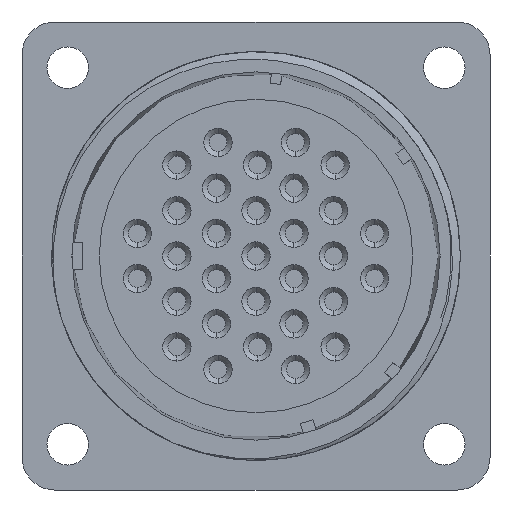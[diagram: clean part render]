
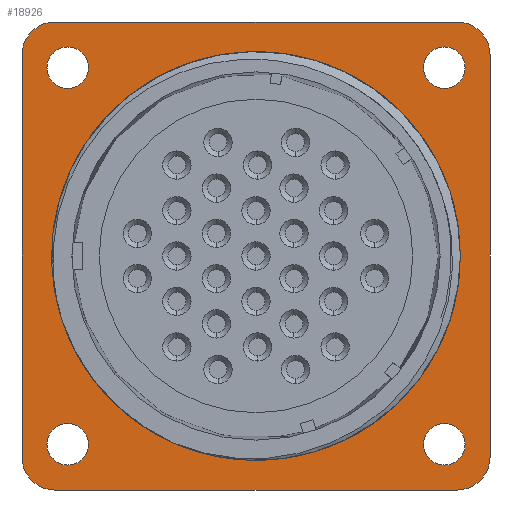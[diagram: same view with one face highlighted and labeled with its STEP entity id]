
A CAD part, front view. The second image highlights one B-rep face of the part: STEP entity #18926.
In plain terms, the highlighted planar face has unit normal (0, -1, 0).
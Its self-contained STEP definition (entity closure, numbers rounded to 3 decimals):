
#5928=CARTESIAN_POINT('',(21.35,-3.2,21.35));
#5929=DIRECTION('',(0.,-1.,0.));
#5930=DIRECTION('',(1.,0.,0.));
#5931=AXIS2_PLACEMENT_3D('',#5928,#5929,#5930);
#5933=DIRECTION('',(0.,0.,-1.));
#5934=VECTOR('',#5933,42.7);
#5935=CARTESIAN_POINT('',(24.85,-3.2,21.35));
#5936=LINE('',#5935,#5934);
#5937=CARTESIAN_POINT('',(21.35,-3.2,-21.35));
#5938=DIRECTION('',(0.,-1.,0.));
#5939=DIRECTION('',(0.,0.,-1.));
#5940=AXIS2_PLACEMENT_3D('',#5937,#5938,#5939);
#5942=DIRECTION('',(-1.,0.,0.));
#5943=VECTOR('',#5942,42.7);
#5944=CARTESIAN_POINT('',(21.35,-3.2,-24.85));
#5945=LINE('',#5944,#5943);
#5946=CARTESIAN_POINT('',(-21.35,-3.2,-21.35));
#5947=DIRECTION('',(0.,-1.,0.));
#5948=DIRECTION('',(-1.,0.,0.));
#5949=AXIS2_PLACEMENT_3D('',#5946,#5947,#5948);
#5951=DIRECTION('',(0.,0.,1.));
#5952=VECTOR('',#5951,42.7);
#5953=CARTESIAN_POINT('',(-24.85,-3.2,-21.35));
#5954=LINE('',#5953,#5952);
#5955=CARTESIAN_POINT('',(-21.35,-3.2,21.35));
#5956=DIRECTION('',(0.,-1.,0.));
#5957=DIRECTION('',(0.,0.,1.));
#5958=AXIS2_PLACEMENT_3D('',#5955,#5956,#5957);
#5960=DIRECTION('',(1.,0.,0.));
#5961=VECTOR('',#5960,42.7);
#5962=CARTESIAN_POINT('',(-21.35,-3.2,24.85));
#5963=LINE('',#5962,#5961);
#5964=CARTESIAN_POINT('',(-20.,-3.2,20.));
#5965=DIRECTION('',(0.,-1.,0.));
#5966=DIRECTION('',(1.,0.,0.));
#5967=AXIS2_PLACEMENT_3D('',#5964,#5965,#5966);
#5969=CARTESIAN_POINT('',(-20.,-3.2,20.));
#5970=DIRECTION('',(0.,-1.,0.));
#5971=DIRECTION('',(-1.,0.,0.));
#5972=AXIS2_PLACEMENT_3D('',#5969,#5970,#5971);
#5974=CARTESIAN_POINT('',(20.,-3.2,20.));
#5975=DIRECTION('',(0.,-1.,0.));
#5976=DIRECTION('',(1.,0.,0.));
#5977=AXIS2_PLACEMENT_3D('',#5974,#5975,#5976);
#5979=CARTESIAN_POINT('',(20.,-3.2,20.));
#5980=DIRECTION('',(0.,-1.,0.));
#5981=DIRECTION('',(-1.,0.,0.));
#5982=AXIS2_PLACEMENT_3D('',#5979,#5980,#5981);
#5984=CARTESIAN_POINT('',(-20.,-3.2,-20.));
#5985=DIRECTION('',(0.,-1.,0.));
#5986=DIRECTION('',(1.,0.,0.));
#5987=AXIS2_PLACEMENT_3D('',#5984,#5985,#5986);
#5989=CARTESIAN_POINT('',(-20.,-3.2,-20.));
#5990=DIRECTION('',(0.,-1.,0.));
#5991=DIRECTION('',(-1.,0.,0.));
#5992=AXIS2_PLACEMENT_3D('',#5989,#5990,#5991);
#5994=CARTESIAN_POINT('',(20.,-3.2,-20.));
#5995=DIRECTION('',(0.,-1.,0.));
#5996=DIRECTION('',(1.,0.,0.));
#5997=AXIS2_PLACEMENT_3D('',#5994,#5995,#5996);
#5999=CARTESIAN_POINT('',(20.,-3.2,-20.));
#6000=DIRECTION('',(0.,-1.,0.));
#6001=DIRECTION('',(-1.,0.,0.));
#6002=AXIS2_PLACEMENT_3D('',#5999,#6000,#6001);
#6023=CARTESIAN_POINT('',(0.,-3.2,0.));
#6024=DIRECTION('',(0.,-1.,0.));
#6025=DIRECTION('',(-1.,0.,0.));
#6026=AXIS2_PLACEMENT_3D('',#6023,#6024,#6025);
#6551=CARTESIAN_POINT('',(0.,-3.2,0.));
#6552=DIRECTION('',(0.,-1.,0.));
#6553=DIRECTION('',(1.,0.,0.));
#6554=AXIS2_PLACEMENT_3D('',#6551,#6552,#6553);
#10053=CARTESIAN_POINT('',(-21.7,-3.2,0.));
#10054=CARTESIAN_POINT('',(21.7,-3.2,0.));
#10055=VERTEX_POINT('',#10053);
#10056=VERTEX_POINT('',#10054);
#10057=CARTESIAN_POINT('',(24.85,-3.2,21.35));
#10058=CARTESIAN_POINT('',(21.35,-3.2,24.85));
#10059=VERTEX_POINT('',#10057);
#10060=VERTEX_POINT('',#10058);
#10065=CARTESIAN_POINT('',(-21.35,-3.2,24.85));
#10066=CARTESIAN_POINT('',(-24.85,-3.2,21.35));
#10067=VERTEX_POINT('',#10065);
#10068=VERTEX_POINT('',#10066);
#10073=CARTESIAN_POINT('',(-24.85,-3.2,-21.35));
#10074=CARTESIAN_POINT('',(-21.35,-3.2,-24.85));
#10075=VERTEX_POINT('',#10073);
#10076=VERTEX_POINT('',#10074);
#10081=CARTESIAN_POINT('',(21.35,-3.2,-24.85));
#10082=CARTESIAN_POINT('',(24.85,-3.2,-21.35));
#10083=VERTEX_POINT('',#10081);
#10084=VERTEX_POINT('',#10082);
#10105=CARTESIAN_POINT('',(-17.8,-3.2,20.));
#10106=CARTESIAN_POINT('',(-22.2,-3.2,20.));
#10107=VERTEX_POINT('',#10105);
#10108=VERTEX_POINT('',#10106);
#10109=CARTESIAN_POINT('',(22.2,-3.2,20.));
#10110=CARTESIAN_POINT('',(17.8,-3.2,20.));
#10111=VERTEX_POINT('',#10109);
#10112=VERTEX_POINT('',#10110);
#10113=CARTESIAN_POINT('',(-17.8,-3.2,-20.));
#10114=CARTESIAN_POINT('',(-22.2,-3.2,-20.));
#10115=VERTEX_POINT('',#10113);
#10116=VERTEX_POINT('',#10114);
#10117=CARTESIAN_POINT('',(22.2,-3.2,-20.));
#10118=CARTESIAN_POINT('',(17.8,-3.2,-20.));
#10119=VERTEX_POINT('',#10117);
#10120=VERTEX_POINT('',#10118);
#18874=CARTESIAN_POINT('',(0.,-3.2,0.));
#18875=DIRECTION('',(0.,1.,0.));
#18876=DIRECTION('',(1.,0.,0.));
#18877=AXIS2_PLACEMENT_3D('',#18874,#18875,#18876);
#18878=PLANE('',#18877);
#18879=ORIENTED_EDGE('',*,*,#18864,.F.);
#18881=ORIENTED_EDGE('',*,*,#18880,.T.);
#18883=ORIENTED_EDGE('',*,*,#18882,.F.);
#18885=ORIENTED_EDGE('',*,*,#18884,.T.);
#18887=ORIENTED_EDGE('',*,*,#18886,.F.);
#18889=ORIENTED_EDGE('',*,*,#18888,.T.);
#18891=ORIENTED_EDGE('',*,*,#18890,.F.);
#18893=ORIENTED_EDGE('',*,*,#18892,.T.);
#18894=EDGE_LOOP('',(#18879,#18881,#18883,#18885,#18887,#18889,#18891,#18893));
#18895=FACE_OUTER_BOUND('',#18894,.F.);
#18897=ORIENTED_EDGE('',*,*,#18896,.T.);
#18899=ORIENTED_EDGE('',*,*,#18898,.T.);
#18900=EDGE_LOOP('',(#18897,#18899));
#18901=FACE_BOUND('',#18900,.F.);
#18903=ORIENTED_EDGE('',*,*,#18902,.T.);
#18905=ORIENTED_EDGE('',*,*,#18904,.T.);
#18906=EDGE_LOOP('',(#18903,#18905));
#18907=FACE_BOUND('',#18906,.F.);
#18909=ORIENTED_EDGE('',*,*,#18908,.T.);
#18911=ORIENTED_EDGE('',*,*,#18910,.T.);
#18912=EDGE_LOOP('',(#18909,#18911));
#18913=FACE_BOUND('',#18912,.F.);
#18915=ORIENTED_EDGE('',*,*,#18914,.T.);
#18917=ORIENTED_EDGE('',*,*,#18916,.T.);
#18918=EDGE_LOOP('',(#18915,#18917));
#18919=FACE_BOUND('',#18918,.F.);
#18921=ORIENTED_EDGE('',*,*,#18920,.T.);
#18923=ORIENTED_EDGE('',*,*,#18922,.T.);
#18924=EDGE_LOOP('',(#18921,#18923));
#18925=FACE_BOUND('',#18924,.F.);
#5932=CIRCLE('',#5931,3.5);
#5941=CIRCLE('',#5940,3.5);
#5950=CIRCLE('',#5949,3.5);
#5959=CIRCLE('',#5958,3.5);
#5968=CIRCLE('',#5967,2.2);
#5973=CIRCLE('',#5972,2.2);
#5978=CIRCLE('',#5977,2.2);
#5983=CIRCLE('',#5982,2.2);
#5988=CIRCLE('',#5987,2.2);
#5993=CIRCLE('',#5992,2.2);
#5998=CIRCLE('',#5997,2.2);
#6003=CIRCLE('',#6002,2.2);
#6027=CIRCLE('',#6026,21.7);
#6555=CIRCLE('',#6554,21.7);
#18864=EDGE_CURVE('',#10059,#10060,#5932,.T.);
#18880=EDGE_CURVE('',#10059,#10084,#5936,.T.);
#18882=EDGE_CURVE('',#10083,#10084,#5941,.T.);
#18884=EDGE_CURVE('',#10083,#10076,#5945,.T.);
#18886=EDGE_CURVE('',#10075,#10076,#5950,.T.);
#18888=EDGE_CURVE('',#10075,#10068,#5954,.T.);
#18890=EDGE_CURVE('',#10067,#10068,#5959,.T.);
#18892=EDGE_CURVE('',#10067,#10060,#5963,.T.);
#18896=EDGE_CURVE('',#10055,#10056,#6027,.T.);
#18898=EDGE_CURVE('',#10056,#10055,#6555,.T.);
#18902=EDGE_CURVE('',#10107,#10108,#5968,.T.);
#18904=EDGE_CURVE('',#10108,#10107,#5973,.T.);
#18908=EDGE_CURVE('',#10111,#10112,#5978,.T.);
#18910=EDGE_CURVE('',#10112,#10111,#5983,.T.);
#18914=EDGE_CURVE('',#10115,#10116,#5988,.T.);
#18916=EDGE_CURVE('',#10116,#10115,#5993,.T.);
#18920=EDGE_CURVE('',#10119,#10120,#5998,.T.);
#18922=EDGE_CURVE('',#10120,#10119,#6003,.T.);
#18926=ADVANCED_FACE('',(#18895,#18901,#18907,#18913,#18919,#18925),#18878,.F.);
